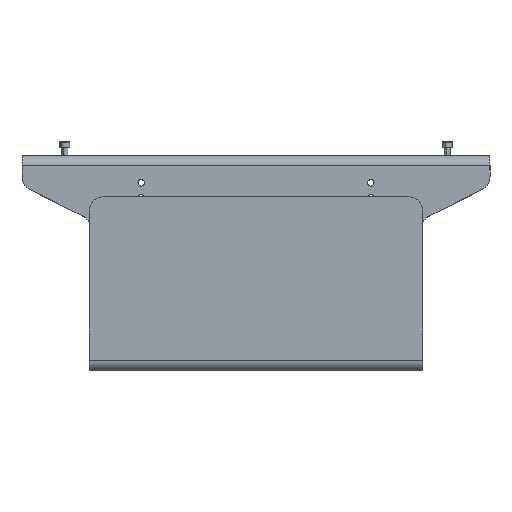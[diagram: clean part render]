
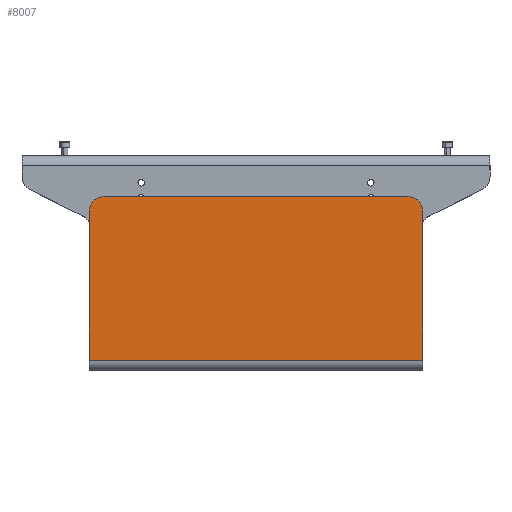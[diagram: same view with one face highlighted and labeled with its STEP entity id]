
A CAD part, top view. The second image highlights one B-rep face of the part: STEP entity #8007.
In plain terms, the highlighted planar face has unit normal (0, 0, 1).
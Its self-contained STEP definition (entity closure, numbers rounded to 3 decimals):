
#69 = VECTOR ( 'NONE', #7351, 1000. ) ;
#372 = LINE ( 'NONE', #7290, #1837 ) ;
#450 = ORIENTED_EDGE ( 'NONE', *, *, #11047, .F. ) ;
#507 = EDGE_CURVE ( 'NONE', #5739, #2182, #12321, .T. ) ;
#771 = CARTESIAN_POINT ( 'NONE',  ( -167., -84.5, 70.5 ) ) ;
#870 = CARTESIAN_POINT ( 'NONE',  ( -152., 69.5, 70.5 ) ) ;
#902 = AXIS2_PLACEMENT_3D ( 'NONE', #870, #4758, #8606 ) ;
#1152 = AXIS2_PLACEMENT_3D ( 'NONE', #5064, #4939, #3109 ) ;
#1225 = VECTOR ( 'NONE', #10714, 1000. ) ;
#1233 = AXIS2_PLACEMENT_3D ( 'NONE', #12144, #10261, #7212 ) ;
#1440 = CARTESIAN_POINT ( 'NONE',  ( 167., -79.5, 70.5 ) ) ;
#1528 = CARTESIAN_POINT ( 'NONE',  ( -167., 69.5, 70.5 ) ) ;
#1837 = VECTOR ( 'NONE', #6240, 1000. ) ;
#2059 = LINE ( 'NONE', #5760, #7842 ) ;
#2182 = VERTEX_POINT ( 'NONE', #1528 ) ;
#2397 = CARTESIAN_POINT ( 'NONE',  ( 167., 69.5, 70.5 ) ) ;
#3019 = VERTEX_POINT ( 'NONE', #1440 ) ;
#3109 = DIRECTION ( 'NONE',  ( -1., 0., 0. ) ) ;
#4293 = CARTESIAN_POINT ( 'NONE',  ( 167., -84.5, 70.5 ) ) ;
#4462 = PLANE ( 'NONE',  #1233 ) ;
#4758 = DIRECTION ( 'NONE',  ( 0., 0., 1. ) ) ;
#4939 = DIRECTION ( 'NONE',  ( 0., 0., 1. ) ) ;
#5064 = CARTESIAN_POINT ( 'NONE',  ( 152., 69.5, 70.5 ) ) ;
#5149 = ORIENTED_EDGE ( 'NONE', *, *, #7560, .F. ) ;
#5320 = CARTESIAN_POINT ( 'NONE',  ( 152., 84.5, 70.5 ) ) ;
#5739 = VERTEX_POINT ( 'NONE', #5989 ) ;
#5760 = CARTESIAN_POINT ( 'NONE',  ( -167., -79.5, 70.5 ) ) ;
#5918 = CIRCLE ( 'NONE', #1152, 15. ) ;
#5989 = CARTESIAN_POINT ( 'NONE',  ( -152., 84.5, 70.5 ) ) ;
#5995 = EDGE_LOOP ( 'NONE', ( #5149, #11719, #6583, #8715, #450, #10799 ) ) ;
#6124 = VERTEX_POINT ( 'NONE', #2397 ) ;
#6186 = VERTEX_POINT ( 'NONE', #5320 ) ;
#6218 = CARTESIAN_POINT ( 'NONE',  ( -167., -79.5, 70.5 ) ) ;
#6240 = DIRECTION ( 'NONE',  ( 1., 0., 0. ) ) ;
#6583 = ORIENTED_EDGE ( 'NONE', *, *, #7769, .F. ) ;
#6657 = VERTEX_POINT ( 'NONE', #6218 ) ;
#7212 = DIRECTION ( 'NONE',  ( -0.987, -0.16, 0. ) ) ;
#7290 = CARTESIAN_POINT ( 'NONE',  ( -167., 84.5, 70.5 ) ) ;
#7351 = DIRECTION ( 'NONE',  ( 0., -1., 0. ) ) ;
#7560 = EDGE_CURVE ( 'NONE', #5739, #6186, #372, .T. ) ;
#7769 = EDGE_CURVE ( 'NONE', #6657, #2182, #8636, .T. ) ;
#7842 = VECTOR ( 'NONE', #9721, 1000. ) ;
#8007 = ADVANCED_FACE ( 'NONE', ( #8193 ), #4462, .F. ) ;
#8143 = LINE ( 'NONE', #4293, #69 ) ;
#8193 = FACE_OUTER_BOUND ( 'NONE', #5995, .T. ) ;
#8606 = DIRECTION ( 'NONE',  ( -1., 0., 0. ) ) ;
#8636 = LINE ( 'NONE', #771, #1225 ) ;
#8715 = ORIENTED_EDGE ( 'NONE', *, *, #12650, .T. ) ;
#9721 = DIRECTION ( 'NONE',  ( 1., 0., 0. ) ) ;
#10261 = DIRECTION ( 'NONE',  ( 0., 0., -1. ) ) ;
#10714 = DIRECTION ( 'NONE',  ( 0., 1., 0. ) ) ;
#10799 = ORIENTED_EDGE ( 'NONE', *, *, #11904, .T. ) ;
#11047 = EDGE_CURVE ( 'NONE', #6124, #3019, #8143, .T. ) ;
#11719 = ORIENTED_EDGE ( 'NONE', *, *, #507, .T. ) ;
#11904 = EDGE_CURVE ( 'NONE', #6124, #6186, #5918, .T. ) ;
#12144 = CARTESIAN_POINT ( 'NONE',  ( 149.617, 40.556, 70.5 ) ) ;
#12321 = CIRCLE ( 'NONE', #902, 15. ) ;
#12650 = EDGE_CURVE ( 'NONE', #6657, #3019, #2059, .T. ) ;
